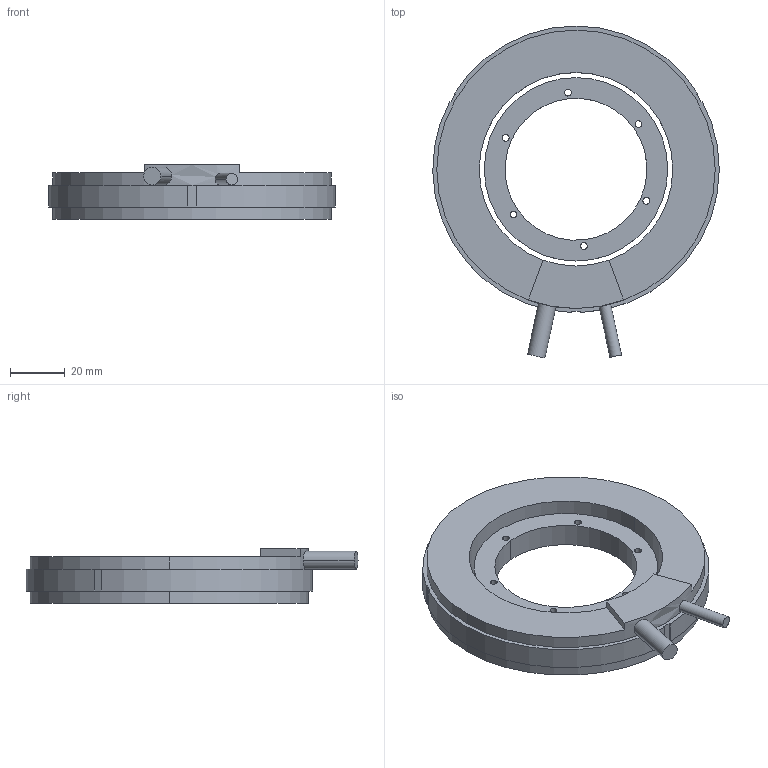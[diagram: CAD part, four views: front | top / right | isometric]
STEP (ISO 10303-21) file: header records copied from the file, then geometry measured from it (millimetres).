
FILE_DESCRIPTION (( 'STEP AP203' ), '1' );
FILE_NAME ('TMX105-17 3D.STEP', '2022-11-23T01:47:31', ( '' ), ( '' ), 'SwSTEP 2.0', 'SolidWorks 2021', '' );
FILE_SCHEMA (( 'CONFIG_CONTROL_DESIGN' ));
Length unit declared in the file: millimetre
Products named in the file (3): TM105-17 3D; TMX105-17 KIT 3D; TMX105-17 3D
Assembly tree (2 placements, depth 2):
  TMX105-17 3D
    TMX105-17 KIT 3D
    TM105-17 3D
Bounding box: 104.99 x 121.65 x 20 mm (x, y, z)
Volume: 89982 mm3; surface area: 26084.2 mm2
Topology: 2 solids, 2 shells, 50 faces, 129 edges, 86 vertices
Faces by surface type: cylinder 30, plane 20
Entity records: 2004 total; most frequent: CARTESIAN_POINT 392, DIRECTION 295, ORIENTED_EDGE 258, EDGE_CURVE 129, AXIS2_PLACEMENT_3D 115, VERTEX_POINT 86, EDGE_LOOP 69, VECTOR 65
